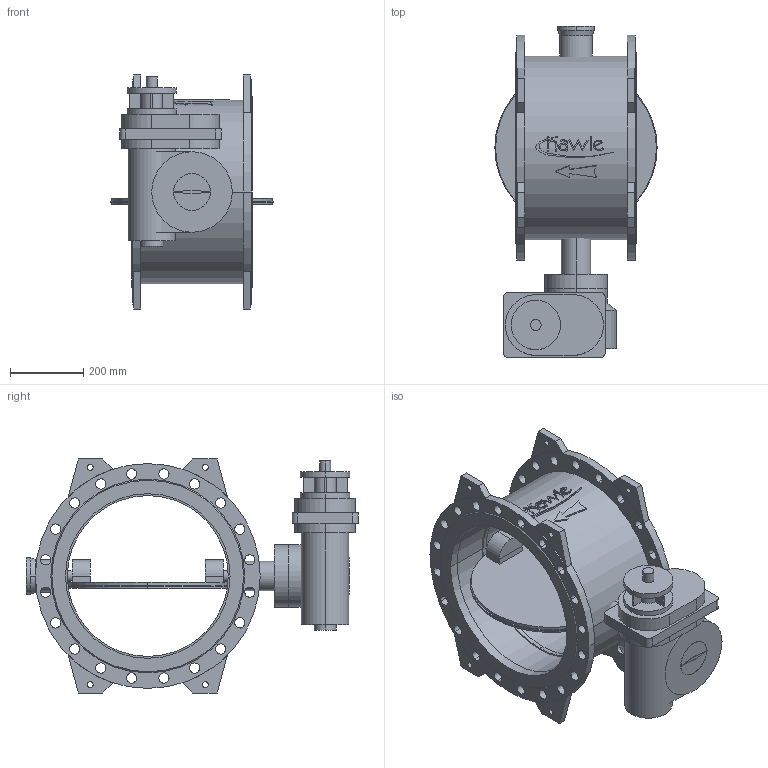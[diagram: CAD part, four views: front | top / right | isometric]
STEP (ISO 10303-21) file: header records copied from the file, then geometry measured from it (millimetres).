
FILE_DESCRIPTION(('STEP AP214'),'1');
FILE_NAME('S:/EK/USER/CAT6/3DHomepage_27-04-2012/neu_08-01-2013/9881K/9881K_PN10_DN450.STP','2013-03-11T13:55:46',(' '),(' '),'Spatial InterOp 3D',' ',' ');
FILE_SCHEMA(('automotive_design'));
Length unit declared in the file: millimetre
Products named in the file (52): 3D-Objekt
Bounding box: 444 x 908 x 640 mm (x, y, z)
Volume: 38906150.2 mm3; surface area: 3472188.6 mm2
Topology: 52 solids, 52 shells, 433 faces, 978 edges, 652 vertices
Faces by surface type: plane 214, cylinder 211, cone 8
Entity records: 17148 total; most frequent: DIRECTION 2386, CARTESIAN_POINT 2115, ORIENTED_EDGE 1956, EDGE_CURVE 978, AXIS2_PLACEMENT_3D 923, VERTEX_POINT 652, EDGE_LOOP 544, LINE 540
